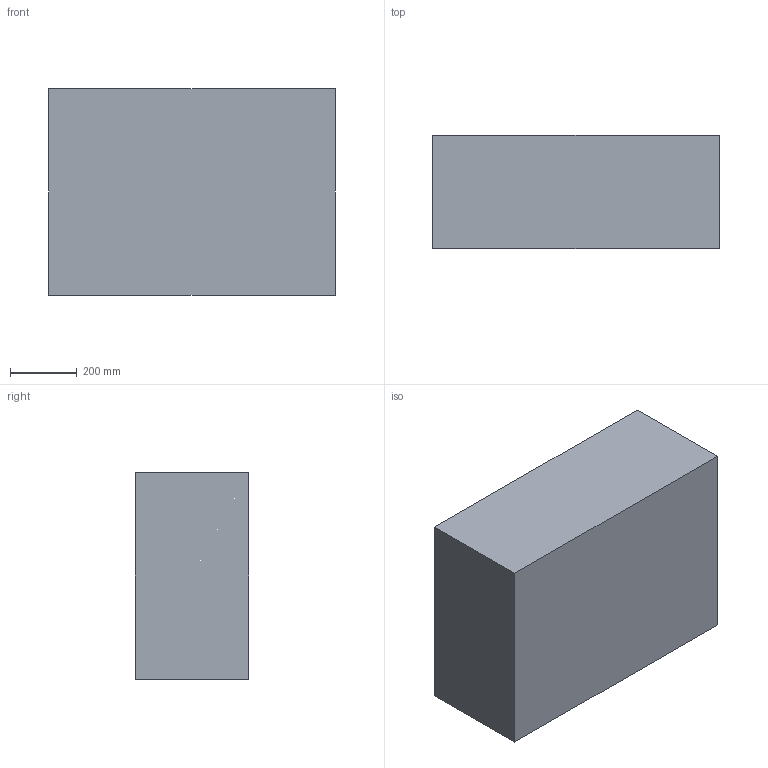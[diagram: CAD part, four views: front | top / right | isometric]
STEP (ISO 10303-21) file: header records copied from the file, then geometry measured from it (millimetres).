
FILE_DESCRIPTION(('FreeCAD Model'),'2;1');
FILE_NAME('Open CASCADE Shape Model','2026-04-01T10:32:58',('FreeCAD'),( 'FreeCAD'),'Open CASCADE STEP processor 7.8','FreeCAD','Unknown');
FILE_SCHEMA(('AUTOMOTIVE_DESIGN { 1 0 10303 214 1 1 1 1 }'));
Length unit declared in the file: millimetre
Products named in the file (1): Open CASCADE STEP translator 7.8 2
Bounding box: 860 x 340 x 620 mm (x, y, z)
Volume: 181288000 mm3; surface area: 2072800 mm2
Topology: 1 solids, 1 shells, 6 faces, 12 edges, 8 vertices
Faces by surface type: plane 6
Entity records: 166 total; most frequent: CARTESIAN_POINT 27, DIRECTION 26, ORIENTED_EDGE 24, EDGE_CURVE 12, LINE 12, VECTOR 12, VERTEX_POINT 8, AXIS2_PLACEMENT_3D 7
